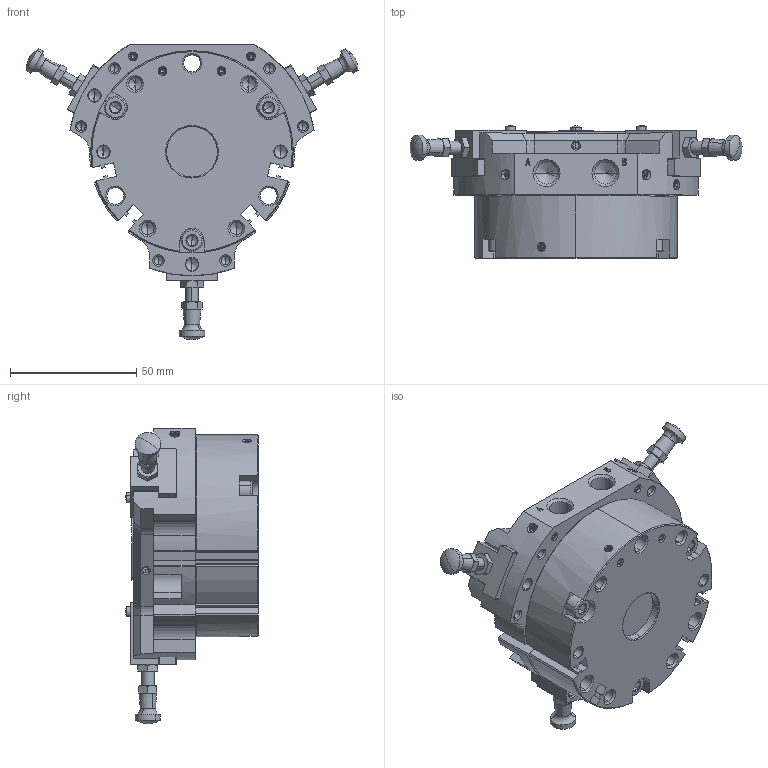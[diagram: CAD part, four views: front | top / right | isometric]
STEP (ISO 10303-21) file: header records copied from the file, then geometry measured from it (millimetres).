
FILE_DESCRIPTION (( 'STEP AP214' ), '1' );
FILE_NAME ('NTS309-QM-UC.STEP', '2025-04-17T06:34:38', ( '' ), ( '' ), 'SwSTEP 2.0', 'SolidWorks 2022', '' );
FILE_SCHEMA (( 'AUTOMOTIVE_DESIGN' ));
Length unit declared in the file: millimetre
Products named in the file (11): S-SARA^HP-NTS309-QM; BOLT^HP-NTS309-QM; MASTER JAW^HP-NTS309-QM; S-TOME2^HP-NTS309-QM; BODY^HP-NTS309-QM; KNOCK PIN^HP-NTS309-QM; REAR BODY^HP-NTS309-QM; NTS309-QM-UC; COVER^HP-NTS309-QM; INDEX PLUNGER^HP-NTS309-QM; S-TOME1^HP-NTS309-QM
Assembly tree (26 placements, depth 2):
  NTS309-QM-UC
    BODY^HP-NTS309-QM
    REAR BODY^HP-NTS309-QM
    COVER^HP-NTS309-QM
    MASTER JAW^HP-NTS309-QM  x3
    BOLT^HP-NTS309-QM  x3
    S-SARA^HP-NTS309-QM  x3
    S-TOME1^HP-NTS309-QM  x7
    S-TOME2^HP-NTS309-QM
    KNOCK PIN^HP-NTS309-QM  x3
    INDEX PLUNGER^HP-NTS309-QM  x3
Bounding box: 131.25 x 52.5 x 116.8 mm (x, y, z)
Volume: 231540.4 mm3; surface area: 72240.1 mm2
Topology: 23 solids, 35 shells, 2243 faces, 5987 edges, 3819 vertices
Faces by surface type: plane 1352, cone 403, cylinder 309, bspline 143, sphere 24, torus 12
Entity records: 64369 total; most frequent: CARTESIAN_POINT 17916, ORIENTED_EDGE 9692, DIRECTION 8373, EDGE_CURVE 4847, VECTOR 3761, LINE 3761, VERTEX_POINT 3161, AXIS2_PLACEMENT_3D 2306
